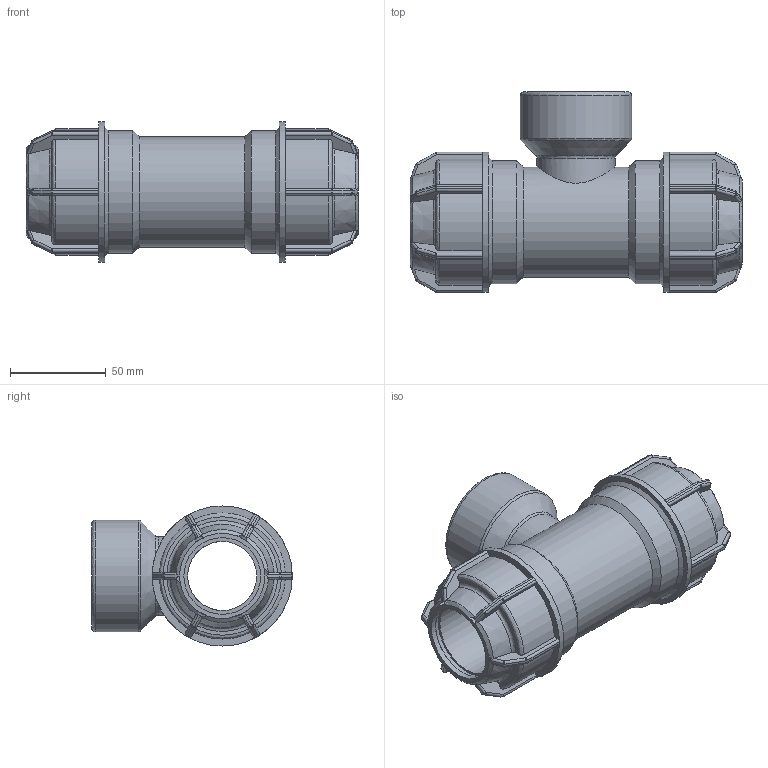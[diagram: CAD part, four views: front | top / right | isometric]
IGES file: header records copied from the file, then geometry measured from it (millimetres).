
Global section: file name: 141400040015.ipt; native system: Autodesk Inventor 2015; preprocessor: unknown; author: KIM; date: 20180416.111611; units: millimetre
Bounding box: 173 x 104.5 x 73 mm (x, y, z)
Volume: 330885.9 mm3; surface area: 78443.5 mm2
Topology: 1 solids, 1 shells, 412 faces, 991 edges, 581 vertices
Faces by surface type: plane 194, cylinder 115, sphere 48, revolution 38, cone 17
Full cylindrical faces by diameter (mm): 40.809 x1, 57.6 x1, 58.298 x1, 64 x2, 73 x2
